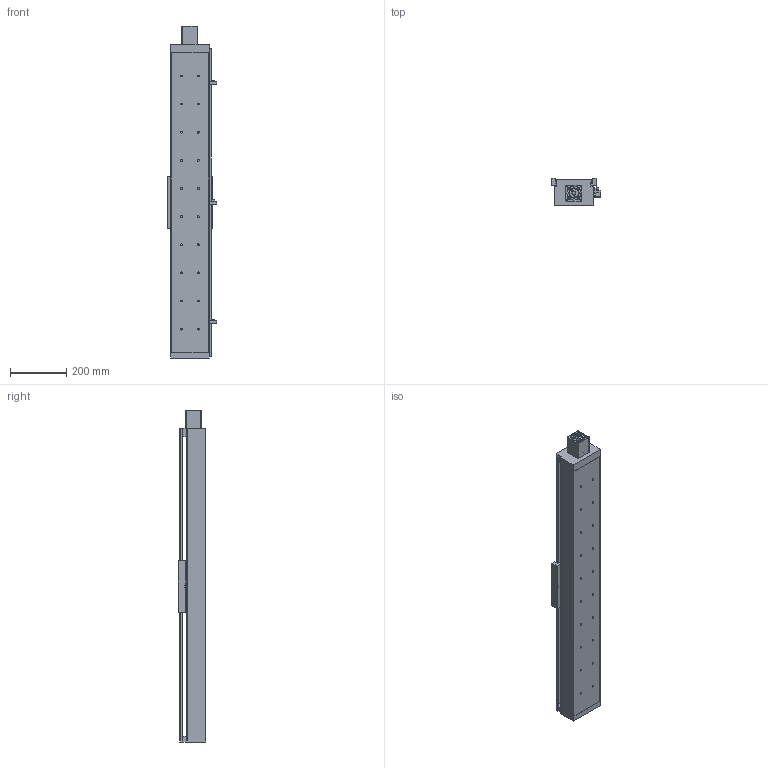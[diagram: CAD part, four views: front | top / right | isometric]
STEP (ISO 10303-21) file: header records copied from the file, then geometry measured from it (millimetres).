
FILE_DESCRIPTION((''),'2;1');
FILE_NAME('E:\libraries\UIA actuator library 2009\standard actuator\UIA136 ball screw 20\UIA136R15NDC stp file 27Apr16\UIA136R15NDC-850-R20_ _-M60-P13-C10-S.stp','2016-04-27T14:01:19',('h029'),(''),'Autodesk Inventor 11','Autodesk Inventor 11','');
FILE_SCHEMA(('AUTOMOTIVE_DESIGN { 1 0 10303 214 1 1 1 1 }'));
Length unit declared in the file: millimetre
Products named in the file (10): UIA136R15NDC-850; UIA136R15NDC-body; motor mount F60; SOH-32C; SOH-32C-3; SOH-32C-1; SOH-32C-2; Carriage; Sensor Switch; sensor rail
Assembly tree (9 placements, depth 3):
  UIA136R15NDC-850
    UIA136R15NDC-body
    motor mount F60
    SOH-32C
      SOH-32C-3
      SOH-32C-1
      SOH-32C-2
    Carriage
    Sensor Switch
    sensor rail
Bounding box: 174.5 x 98 x 1180 mm (x, y, z)
Volume: 4460082.2 mm3; surface area: 1230294.2 mm2
Topology: 8 solids, 8 shells, 507 faces, 1329 edges, 873 vertices
Faces by surface type: plane 313, bspline 150, cylinder 40, cone 4
Full cylindrical faces by diameter (mm): 2.459 x2, 3.242 x2, 4.5 x2, 5.5 x3, 7.5 x2, 10 x2, 12 x1, 14 x1, 32 x3, 37 x1, 41.9 x1, 42.1 x1, 43.5 x1
Entity records: 16651 total; most frequent: CARTESIAN_POINT 4970, ORIENTED_EDGE 2250, DIRECTION 2186, EDGE_CURVE 1125, VERTEX_POINT 808, VECTOR 798, LINE 798, EDGE_LOOP 773
